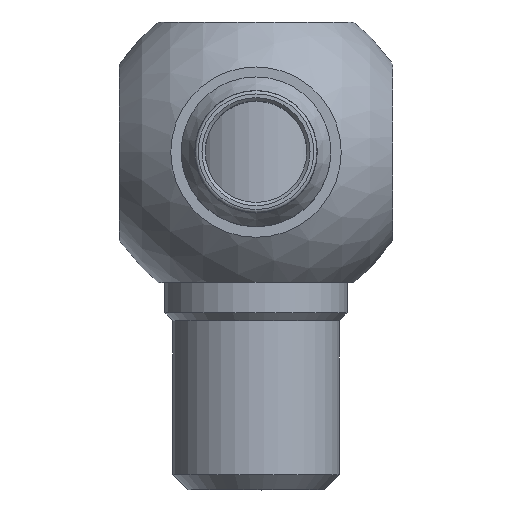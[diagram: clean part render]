
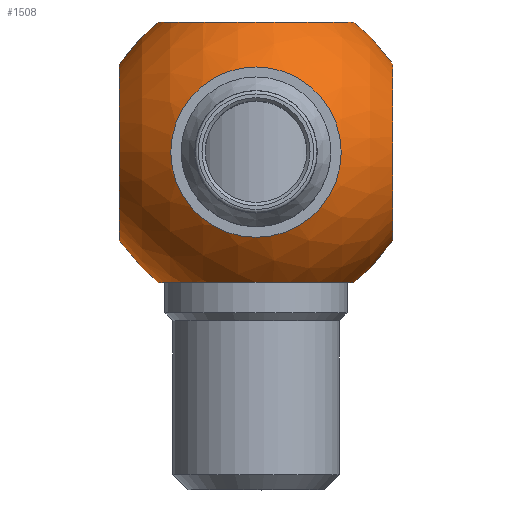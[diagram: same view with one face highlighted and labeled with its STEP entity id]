
A CAD part, top view. The second image highlights one B-rep face of the part: STEP entity #1508.
In plain terms, the highlighted spherical face has radius 12.7 mm.
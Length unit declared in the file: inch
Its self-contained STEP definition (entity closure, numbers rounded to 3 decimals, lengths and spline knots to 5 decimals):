
#11=SPHERICAL_SURFACE('',#1767,0.5);
#59=FACE_BOUND('',#306,.T.);
#60=FACE_BOUND('',#307,.T.);
#61=FACE_BOUND('',#308,.T.);
#207=FACE_OUTER_BOUND('',#305,.T.);
#305=EDGE_LOOP('',(#1406,#1407,#1408,#1409));
#306=EDGE_LOOP('',(#1410));
#307=EDGE_LOOP('',(#1411));
#308=EDGE_LOOP('',(#1412));
#507=CIRCLE('',#1665,0.3);
#570=CIRCLE('',#1752,0.26177);
#571=CIRCLE('',#1756,0.27129);
#572=CIRCLE('',#1758,0.27129);
#573=CIRCLE('',#1760,0.42);
#574=CIRCLE('',#1761,0.42);
#575=CIRCLE('',#1763,0.3);
#681=VERTEX_POINT('',#2663);
#733=VERTEX_POINT('',#2811);
#734=VERTEX_POINT('',#2818);
#735=VERTEX_POINT('',#2819);
#736=VERTEX_POINT('',#2823);
#737=VERTEX_POINT('',#2824);
#738=VERTEX_POINT('',#2831);
#880=EDGE_CURVE('',#681,#681,#507,.T.);
#952=EDGE_CURVE('',#733,#733,#570,.T.);
#955=EDGE_CURVE('',#734,#735,#571,.T.);
#957=EDGE_CURVE('',#736,#737,#572,.T.);
#959=EDGE_CURVE('',#737,#734,#573,.T.);
#960=EDGE_CURVE('',#735,#736,#574,.T.);
#961=EDGE_CURVE('',#738,#738,#575,.T.);
#1406=ORIENTED_EDGE('',*,*,#957,.T.);
#1407=ORIENTED_EDGE('',*,*,#959,.T.);
#1408=ORIENTED_EDGE('',*,*,#955,.T.);
#1409=ORIENTED_EDGE('',*,*,#960,.T.);
#1410=ORIENTED_EDGE('',*,*,#952,.T.);
#1411=ORIENTED_EDGE('',*,*,#880,.T.);
#1412=ORIENTED_EDGE('',*,*,#961,.F.);
#1508=ADVANCED_FACE('',(#207,#59,#60,#61),#11,.T.);
#1665=AXIS2_PLACEMENT_3D('',#2664,#2095,#2096);
#1752=AXIS2_PLACEMENT_3D('',#2812,#2278,#2279);
#1756=AXIS2_PLACEMENT_3D('',#2820,#2288,#2289);
#1758=AXIS2_PLACEMENT_3D('',#2825,#2293,#2294);
#1760=AXIS2_PLACEMENT_3D('',#2828,#2298,#2299);
#1761=AXIS2_PLACEMENT_3D('',#2829,#2300,#2301);
#1763=AXIS2_PLACEMENT_3D('',#2832,#2304,#2305);
#1767=AXIS2_PLACEMENT_3D('',#2839,#2313,#2314);
#2095=DIRECTION('center_axis',(0.,-1.,0.));
#2096=DIRECTION('ref_axis',(1.,0.,0.));
#2278=DIRECTION('center_axis',(0.,0.,-1.));
#2279=DIRECTION('ref_axis',(0.,-1.,0.));
#2288=DIRECTION('center_axis',(1.,0.,0.));
#2289=DIRECTION('ref_axis',(0.,0.,1.));
#2293=DIRECTION('center_axis',(-1.,0.,0.));
#2294=DIRECTION('ref_axis',(0.,0.,-1.));
#2298=DIRECTION('center_axis',(0.,1.,0.));
#2299=DIRECTION('ref_axis',(1.,0.,0.));
#2300=DIRECTION('center_axis',(0.,-1.,0.));
#2301=DIRECTION('ref_axis',(1.,0.,0.));
#2304=DIRECTION('center_axis',(0.,-1.,0.));
#2305=DIRECTION('ref_axis',(1.,0.,0.));
#2313=DIRECTION('center_axis',(1.,0.,0.));
#2314=DIRECTION('ref_axis',(0.,0.,1.));
#2663=CARTESIAN_POINT('',(0.,0.4,-0.3));
#2664=CARTESIAN_POINT('Origin',(0.,0.4,0.));
#2811=CARTESIAN_POINT('',(0.,0.26177,0.426));
#2812=CARTESIAN_POINT('Origin',(0.,0.,0.426));
#2818=CARTESIAN_POINT('',(-0.42,0.27129,0.));
#2819=CARTESIAN_POINT('',(-0.42,-0.27129,0.));
#2820=CARTESIAN_POINT('Origin',(-0.42,0.,0.));
#2823=CARTESIAN_POINT('',(0.42,-0.27129,0.));
#2824=CARTESIAN_POINT('',(0.42,0.27129,0.));
#2825=CARTESIAN_POINT('Origin',(0.42,0.,0.));
#2828=CARTESIAN_POINT('Origin',(0.,0.27129,0.));
#2829=CARTESIAN_POINT('Origin',(0.,-0.27129,0.));
#2831=CARTESIAN_POINT('',(0.,-0.4,-0.3));
#2832=CARTESIAN_POINT('Origin',(0.,-0.4,0.));
#2839=CARTESIAN_POINT('Origin',(0.,0.,0.));
